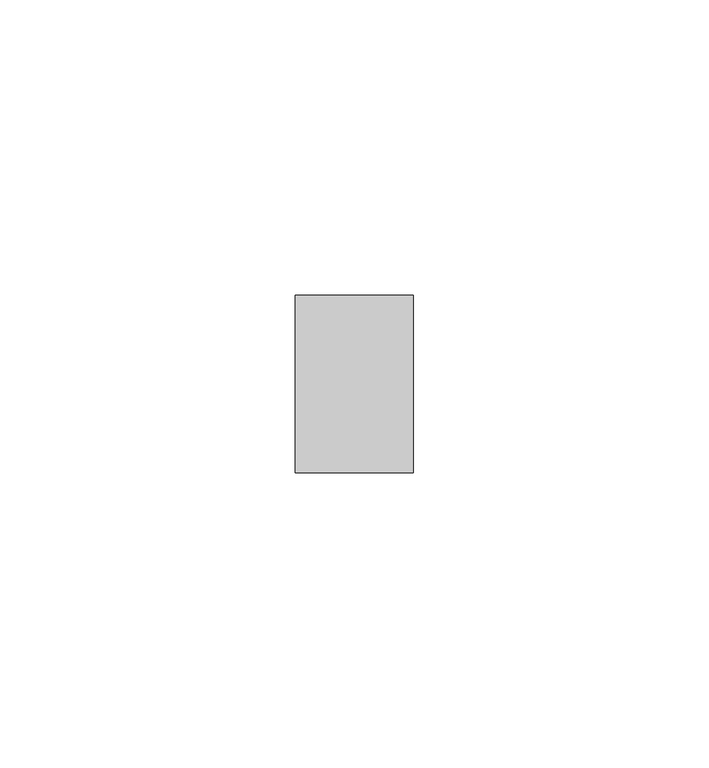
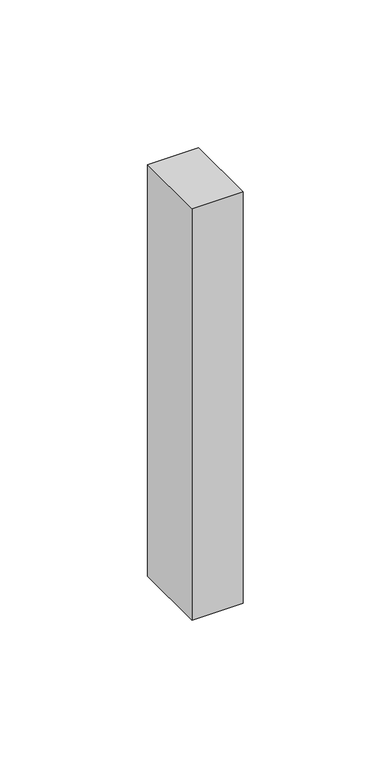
"""IFC4 building model written with IfcOpenShell, lengths in millimetres: member geometry, Прямоугольный импост : Квадрат 10 мм - Зазор между навесными плитами."""

from ifc_helpers import new_model, si_unit, frame, origin, place, context, project, spatial, polyline, outline, extrude, source, transform, mapped, element, save


def member_062184b2(model_context):
    return source(origin(), model_context, "Body", "SweptSolid", [
        extrude(outline(polyline([(0.0, 15.0), (0.0, -15.0), (-20.0, -15.0), (-20.0, 15.0), (0.0, 15.0)])), frame((0.0, 0.0, -170.0), z_axis=(0.0, 0.0, 1.0), x_axis=(1.0, 0.0, 0.0)), (0.0, 0.0, 1.0), 170.0),
    ])


if __name__ == "__main__":
    model = new_model("IFC4")
    model_context = context("Model", 3, world=origin())
    ifc_project = project(units=[si_unit("LENGTHUNIT", "METRE", prefix="MILLI")], contexts=[model_context])
    site = spatial("IfcSite", under=ifc_project)
    building = spatial("IfcBuilding", under=site)
    placement = place(None, origin())
    member_shape = member_062184b2(model_context)
    element("IfcMember", 1, ObjectType="Прямоугольный импост : Квадрат 10 мм - Зазор между навесными плитами", at=placement, inside=building, context=model_context, shape_type="MappedRepresentation", body=[
        mapped(member_shape, transform((0.0, 0.0, 0.0), x_axis=(1.0, 0.0, 0.0), y_axis=(0.0, 1.0, 0.0), z_axis=(0.0, 0.0, 1.0))),
    ])
    save(model, "model.ifc")
